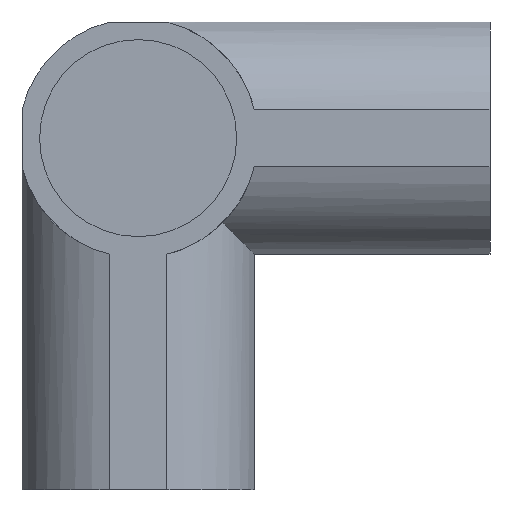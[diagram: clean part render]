
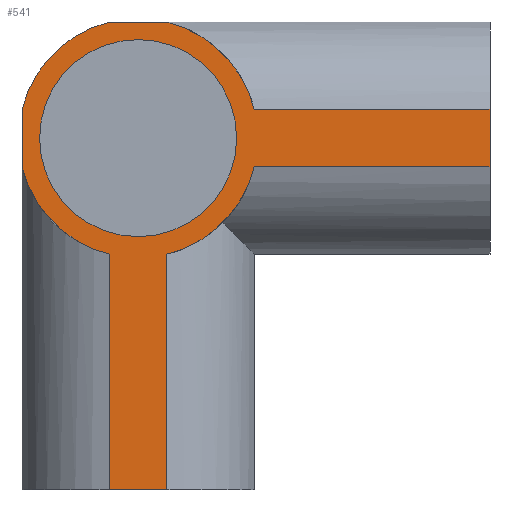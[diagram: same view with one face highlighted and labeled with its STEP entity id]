
A CAD part, front view. The second image highlights one B-rep face of the part: STEP entity #541.
In plain terms, the highlighted planar face has unit normal (0, -1, 0).
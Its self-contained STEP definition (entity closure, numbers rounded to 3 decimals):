
#12 = CARTESIAN_POINT ( 'NONE',  ( 4.093, -16.5, 17.001 ) ) ;
#22 = ORIENTED_EDGE ( 'NONE', *, *, #512, .F. ) ;
#41 = EDGE_CURVE ( 'NONE', #278, #775, #69, .T. ) ;
#42 = VECTOR ( 'NONE', #702, 1000. ) ;
#44 = VECTOR ( 'NONE', #179, 1000. ) ;
#56 = VECTOR ( 'NONE', #736, 1000. ) ;
#57 = EDGE_CURVE ( 'NONE', #775, #278, #636, .T. ) ;
#61 = VERTEX_POINT ( 'NONE', #540 ) ;
#62 = ORIENTED_EDGE ( 'NONE', *, *, #175, .T. ) ;
#69 = CIRCLE ( 'NONE', #742, 14. ) ;
#70 = AXIS2_PLACEMENT_3D ( 'NONE', #132, #588, #915 ) ;
#74 = VERTEX_POINT ( 'NONE', #927 ) ;
#76 = EDGE_CURVE ( 'NONE', #141, #690, #237, .T. ) ;
#80 = VERTEX_POINT ( 'NONE', #792 ) ;
#86 = CARTESIAN_POINT ( 'NONE',  ( 50., -16.5, 4.093 ) ) ;
#87 = AXIS2_PLACEMENT_3D ( 'NONE', #241, #476, #385 ) ;
#91 = ORIENTED_EDGE ( 'NONE', *, *, #470, .F. ) ;
#103 = VECTOR ( 'NONE', #922, 1000. ) ;
#106 = CARTESIAN_POINT ( 'NONE',  ( -4.093, -16.5, -50. ) ) ;
#108 = CARTESIAN_POINT ( 'NONE',  ( -4.1, -16.5, 16.5 ) ) ;
#109 = VERTEX_POINT ( 'NONE', #244 ) ;
#132 = CARTESIAN_POINT ( 'NONE',  ( 0., -16.5, 0. ) ) ;
#141 = VERTEX_POINT ( 'NONE', #86 ) ;
#155 = DIRECTION ( 'NONE',  ( -1., 0., 0. ) ) ;
#160 = CARTESIAN_POINT ( 'NONE',  ( 0., -16.5, -50. ) ) ;
#175 = EDGE_CURVE ( 'NONE', #964, #652, #865, .T. ) ;
#179 = DIRECTION ( 'NONE',  ( 0., 0., 1. ) ) ;
#182 = CARTESIAN_POINT ( 'NONE',  ( 50., -16.5, 4.1 ) ) ;
#186 = VECTOR ( 'NONE', #383, 1000. ) ;
#237 = LINE ( 'NONE', #467, #757 ) ;
#239 = ORIENTED_EDGE ( 'NONE', *, *, #57, .F. ) ;
#241 = CARTESIAN_POINT ( 'NONE',  ( 0., -16.5, 0. ) ) ;
#242 = DIRECTION ( 'NONE',  ( 1., 0., 0. ) ) ;
#244 = CARTESIAN_POINT ( 'NONE',  ( 50., -16.5, -4.093 ) ) ;
#259 = ORIENTED_EDGE ( 'NONE', *, *, #295, .F. ) ;
#264 = DIRECTION ( 'NONE',  ( 0., 1., 0. ) ) ;
#267 = ORIENTED_EDGE ( 'NONE', *, *, #356, .F. ) ;
#278 = VERTEX_POINT ( 'NONE', #797 ) ;
#295 = EDGE_CURVE ( 'NONE', #904, #80, #884, .T. ) ;
#297 = CIRCLE ( 'NONE', #876, 17. ) ;
#327 = AXIS2_PLACEMENT_3D ( 'NONE', #875, #882, #406 ) ;
#329 = CARTESIAN_POINT ( 'NONE',  ( -16.5, -16.5, 4.1 ) ) ;
#332 = EDGE_LOOP ( 'NONE', ( #239, #836 ) ) ;
#334 = LINE ( 'NONE', #182, #937 ) ;
#356 = EDGE_CURVE ( 'NONE', #61, #412, #592, .T. ) ;
#365 = CARTESIAN_POINT ( 'NONE',  ( 4.093, -16.5, -50. ) ) ;
#368 = DIRECTION ( 'NONE',  ( 0., -1., 0. ) ) ;
#383 = DIRECTION ( 'NONE',  ( 0., 0., 1. ) ) ;
#385 = DIRECTION ( 'NONE',  ( 0., 0., -1. ) ) ;
#406 = DIRECTION ( 'NONE',  ( 0., 0., 1. ) ) ;
#412 = VERTEX_POINT ( 'NONE', #693 ) ;
#421 = DIRECTION ( 'NONE',  ( 0., 0., 1. ) ) ;
#433 = ORIENTED_EDGE ( 'NONE', *, *, #849, .F. ) ;
#447 = ORIENTED_EDGE ( 'NONE', *, *, #896, .T. ) ;
#448 = VERTEX_POINT ( 'NONE', #533 ) ;
#455 = VECTOR ( 'NONE', #242, 1000. ) ;
#461 = CIRCLE ( 'NONE', #327, 17. ) ;
#467 = CARTESIAN_POINT ( 'NONE',  ( -17.001, -16.5, 4.093 ) ) ;
#470 = EDGE_CURVE ( 'NONE', #829, #904, #860, .T. ) ;
#472 = CARTESIAN_POINT ( 'NONE',  ( -17.001, -16.5, -4.093 ) ) ;
#476 = DIRECTION ( 'NONE',  ( 0., -1., 0. ) ) ;
#479 = CARTESIAN_POINT ( 'NONE',  ( 0., -16.5, 0. ) ) ;
#487 = ORIENTED_EDGE ( 'NONE', *, *, #793, .T. ) ;
#501 = DIRECTION ( 'NONE',  ( 0., 0., 1. ) ) ;
#502 = LINE ( 'NONE', #108, #56 ) ;
#510 = CARTESIAN_POINT ( 'NONE',  ( 16.5, -16.5, 4.093 ) ) ;
#512 = EDGE_CURVE ( 'NONE', #80, #448, #297, .T. ) ;
#533 = CARTESIAN_POINT ( 'NONE',  ( -4.093, -16.5, 16.5 ) ) ;
#536 = ORIENTED_EDGE ( 'NONE', *, *, #907, .T. ) ;
#540 = CARTESIAN_POINT ( 'NONE',  ( 16.5, -16.5, -4.093 ) ) ;
#541 = ADVANCED_FACE ( 'NONE', ( #955, #573 ), #568, .F. ) ;
#562 = DIRECTION ( 'NONE',  ( 0., 1., 0. ) ) ;
#566 = EDGE_CURVE ( 'NONE', #448, #74, #502, .T. ) ;
#568 = PLANE ( 'NONE',  #809 ) ;
#573 = FACE_OUTER_BOUND ( 'NONE', #856, .T. ) ;
#588 = DIRECTION ( 'NONE',  ( 0., 1., 0. ) ) ;
#592 = CIRCLE ( 'NONE', #70, 17. ) ;
#615 = LINE ( 'NONE', #12, #186 ) ;
#632 = DIRECTION ( 'NONE',  ( 0., 0., 1. ) ) ;
#636 = CIRCLE ( 'NONE', #87, 14. ) ;
#650 = LINE ( 'NONE', #472, #455 ) ;
#652 = VERTEX_POINT ( 'NONE', #365 ) ;
#678 = DIRECTION ( 'NONE',  ( 0., 0., -1. ) ) ;
#679 = ORIENTED_EDGE ( 'NONE', *, *, #76, .T. ) ;
#690 = VERTEX_POINT ( 'NONE', #510 ) ;
#693 = CARTESIAN_POINT ( 'NONE',  ( 4.093, -16.5, -16.5 ) ) ;
#696 = LINE ( 'NONE', #863, #103 ) ;
#702 = DIRECTION ( 'NONE',  ( 1., 0., 0. ) ) ;
#712 = ORIENTED_EDGE ( 'NONE', *, *, #566, .F. ) ;
#736 = DIRECTION ( 'NONE',  ( 1., 0., 0. ) ) ;
#742 = AXIS2_PLACEMENT_3D ( 'NONE', #758, #368, #678 ) ;
#743 = AXIS2_PLACEMENT_3D ( 'NONE', #479, #562, #632 ) ;
#757 = VECTOR ( 'NONE', #155, 1000. ) ;
#758 = CARTESIAN_POINT ( 'NONE',  ( 0., -16.5, 0. ) ) ;
#775 = VERTEX_POINT ( 'NONE', #929 ) ;
#782 = EDGE_CURVE ( 'NONE', #652, #412, #615, .T. ) ;
#792 = CARTESIAN_POINT ( 'NONE',  ( -16.5, -16.5, 4.093 ) ) ;
#793 = EDGE_CURVE ( 'NONE', #829, #964, #696, .T. ) ;
#797 = CARTESIAN_POINT ( 'NONE',  ( 0., -16.5, 14. ) ) ;
#801 = CARTESIAN_POINT ( 'NONE',  ( 0., -16.5, 0. ) ) ;
#808 = DIRECTION ( 'NONE',  ( 0., 0., 1. ) ) ;
#809 = AXIS2_PLACEMENT_3D ( 'NONE', #801, #973, #421 ) ;
#829 = VERTEX_POINT ( 'NONE', #1000 ) ;
#836 = ORIENTED_EDGE ( 'NONE', *, *, #41, .F. ) ;
#849 = EDGE_CURVE ( 'NONE', #74, #690, #461, .T. ) ;
#856 = EDGE_LOOP ( 'NONE', ( #433, #712, #22, #259, #91, #487, #62, #976, #267, #447, #536, #679 ) ) ;
#860 = CIRCLE ( 'NONE', #743, 17. ) ;
#863 = CARTESIAN_POINT ( 'NONE',  ( -4.093, -16.5, 17.001 ) ) ;
#865 = LINE ( 'NONE', #160, #42 ) ;
#875 = CARTESIAN_POINT ( 'NONE',  ( 0., -16.5, 0. ) ) ;
#876 = AXIS2_PLACEMENT_3D ( 'NONE', #877, #264, #808 ) ;
#877 = CARTESIAN_POINT ( 'NONE',  ( 0., -16.5, 0. ) ) ;
#882 = DIRECTION ( 'NONE',  ( 0., 1., 0. ) ) ;
#884 = LINE ( 'NONE', #329, #44 ) ;
#896 = EDGE_CURVE ( 'NONE', #61, #109, #650, .T. ) ;
#904 = VERTEX_POINT ( 'NONE', #966 ) ;
#907 = EDGE_CURVE ( 'NONE', #109, #141, #334, .T. ) ;
#915 = DIRECTION ( 'NONE',  ( 0., 0., 1. ) ) ;
#922 = DIRECTION ( 'NONE',  ( 0., 0., -1. ) ) ;
#927 = CARTESIAN_POINT ( 'NONE',  ( 4.093, -16.5, 16.5 ) ) ;
#929 = CARTESIAN_POINT ( 'NONE',  ( 0., -16.5, -14. ) ) ;
#937 = VECTOR ( 'NONE', #501, 1000. ) ;
#955 = FACE_BOUND ( 'NONE', #332, .T. ) ;
#964 = VERTEX_POINT ( 'NONE', #106 ) ;
#966 = CARTESIAN_POINT ( 'NONE',  ( -16.5, -16.5, -4.093 ) ) ;
#973 = DIRECTION ( 'NONE',  ( 0., 1., 0. ) ) ;
#976 = ORIENTED_EDGE ( 'NONE', *, *, #782, .T. ) ;
#1000 = CARTESIAN_POINT ( 'NONE',  ( -4.093, -16.5, -16.5 ) ) ;
